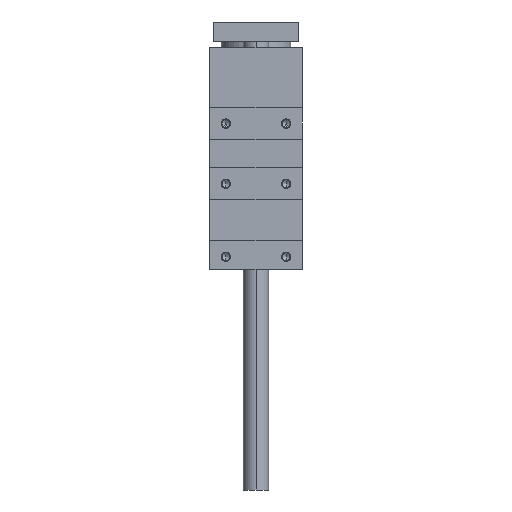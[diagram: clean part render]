
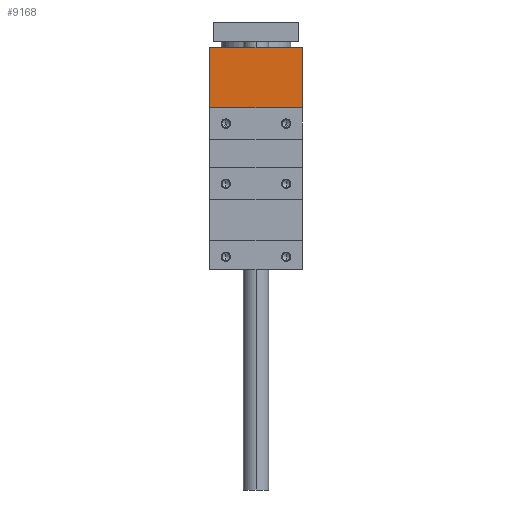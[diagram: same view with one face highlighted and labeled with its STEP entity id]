
A CAD part, left-side view. The second image highlights one B-rep face of the part: STEP entity #9168.
In plain terms, the highlighted planar face has unit normal (-1, 0, 0).
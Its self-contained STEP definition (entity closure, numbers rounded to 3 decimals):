
#219 = CARTESIAN_POINT ( 'NONE',  ( -57.2, 58., 21. ) ) ;
#274 = DIRECTION ( 'NONE',  ( 0., 1., 0. ) ) ;
#428 = EDGE_CURVE ( 'NONE', #9800, #7004, #9229, .T. ) ;
#970 = CARTESIAN_POINT ( 'NONE',  ( -57.2, 58., 21. ) ) ;
#1216 = DIRECTION ( 'NONE',  ( 1., 0., 0. ) ) ;
#2281 = CARTESIAN_POINT ( 'NONE',  ( -57.2, -29., 21. ) ) ;
#2291 = CARTESIAN_POINT ( 'NONE',  ( -57.2, 29., 59. ) ) ;
#2304 = DIRECTION ( 'NONE',  ( 0., 0., -1. ) ) ;
#2378 = EDGE_CURVE ( 'NONE', #9800, #3045, #9369, .T. ) ;
#2641 = CARTESIAN_POINT ( 'NONE',  ( -57.2, 29., 21. ) ) ;
#2722 = FACE_OUTER_BOUND ( 'NONE', #5134, .T. ) ;
#2784 = CARTESIAN_POINT ( 'NONE',  ( -57.2, 58., 59. ) ) ;
#3045 = VERTEX_POINT ( 'NONE', #2641 ) ;
#3968 = EDGE_CURVE ( 'NONE', #3045, #10257, #8093, .T. ) ;
#4223 = ORIENTED_EDGE ( 'NONE', *, *, #6297, .F. ) ;
#4330 = VECTOR ( 'NONE', #2304, 1000. ) ;
#4432 = DIRECTION ( 'NONE',  ( 0., 0., -1. ) ) ;
#5134 = EDGE_LOOP ( 'NONE', ( #9928, #10083, #4223, #9752 ) ) ;
#6168 = AXIS2_PLACEMENT_3D ( 'NONE', #219, #1216, #274 ) ;
#6297 = EDGE_CURVE ( 'NONE', #7004, #10257, #8311, .T. ) ;
#6673 = DIRECTION ( 'NONE',  ( 0., -1., 0. ) ) ;
#7001 = VECTOR ( 'NONE', #7467, 1000. ) ;
#7004 = VERTEX_POINT ( 'NONE', #8476 ) ;
#7128 = CARTESIAN_POINT ( 'NONE',  ( -57.2, 29., 0. ) ) ;
#7431 = VECTOR ( 'NONE', #6673, 1000. ) ;
#7450 = PLANE ( 'NONE',  #6168 ) ;
#7467 = DIRECTION ( 'NONE',  ( 0., -1., 0. ) ) ;
#7555 = VECTOR ( 'NONE', #4432, 1000. ) ;
#8093 = LINE ( 'NONE', #970, #7001 ) ;
#8311 = LINE ( 'NONE', #9773, #7555 ) ;
#8476 = CARTESIAN_POINT ( 'NONE',  ( -57.2, -29., 59. ) ) ;
#9168 = ADVANCED_FACE ( 'NONE', ( #2722 ), #7450, .F. ) ;
#9229 = LINE ( 'NONE', #2784, #7431 ) ;
#9369 = LINE ( 'NONE', #7128, #4330 ) ;
#9752 = ORIENTED_EDGE ( 'NONE', *, *, #428, .F. ) ;
#9773 = CARTESIAN_POINT ( 'NONE',  ( -57.2, -29., 0. ) ) ;
#9800 = VERTEX_POINT ( 'NONE', #2291 ) ;
#9928 = ORIENTED_EDGE ( 'NONE', *, *, #2378, .T. ) ;
#10083 = ORIENTED_EDGE ( 'NONE', *, *, #3968, .T. ) ;
#10257 = VERTEX_POINT ( 'NONE', #2281 ) ;
